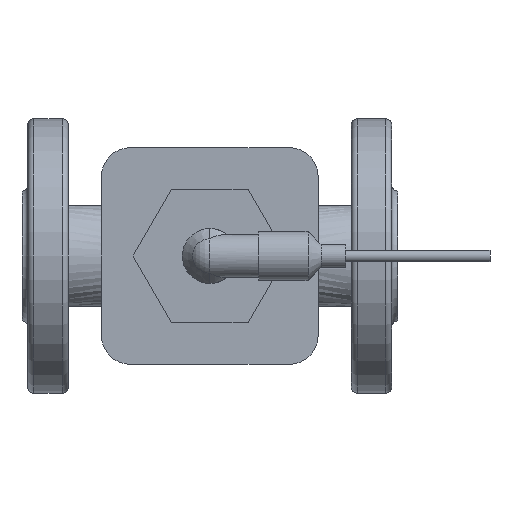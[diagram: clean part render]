
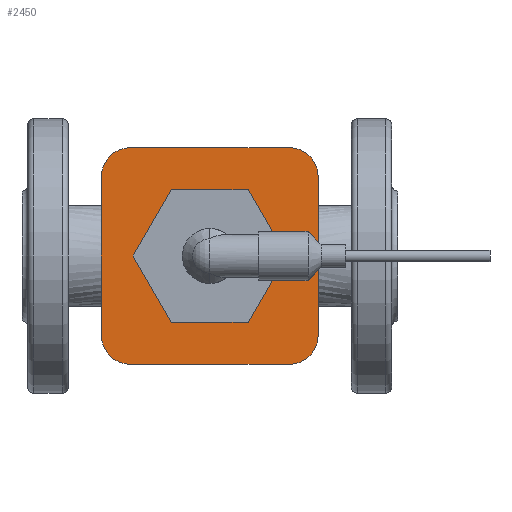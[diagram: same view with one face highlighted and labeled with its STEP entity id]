
A CAD part, front view. The second image highlights one B-rep face of the part: STEP entity #2450.
In plain terms, the highlighted planar face has unit normal (0, -1, 0).
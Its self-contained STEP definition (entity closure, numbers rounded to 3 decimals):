
#17 = CARTESIAN_POINT ( 'NONE',  ( -19.25, 1009.521, -37.5 ) ) ;
#18 = CARTESIAN_POINT ( 'NONE',  ( 8.25, 1009.521, -21. ) ) ;
#19 = DIRECTION ( 'NONE',  ( 0., 0., 1. ) ) ;
#20 = DIRECTION ( 'NONE',  ( 0., 1., 0. ) ) ;
#21 = CARTESIAN_POINT ( 'NONE',  ( 8.25, 1009.521, 0. ) ) ;
#22 = AXIS2_PLACEMENT_3D ( 'NONE', #21, #20, #19 ) ;
#23 = CIRCLE ( 'NONE', #22, 21. ) ;
#57 = DIRECTION ( 'NONE',  ( 0., 0., 1. ) ) ;
#58 = DIRECTION ( 'NONE',  ( 0., 1., 0. ) ) ;
#59 = CARTESIAN_POINT ( 'NONE',  ( -19.25, 1009.521, -27.5 ) ) ;
#60 = AXIS2_PLACEMENT_3D ( 'NONE', #59, #58, #57 ) ;
#61 = PLANE ( 'NONE',  #60 ) ;
#73 = FACE_BOUND ( 'NONE', #2413, .T. ) ;
#74 = DIRECTION ( 'NONE',  ( 0., 0., 1. ) ) ;
#75 = DIRECTION ( 'NONE',  ( 0., 1., 0. ) ) ;
#76 = CARTESIAN_POINT ( 'NONE',  ( 35.75, 1009.521, 27.5 ) ) ;
#77 = AXIS2_PLACEMENT_3D ( 'NONE', #76, #75, #74 ) ;
#82 = CARTESIAN_POINT ( 'NONE',  ( -29.25, 1009.521, 27.5 ) ) ;
#83 = DIRECTION ( 'NONE',  ( 0., 0., 1. ) ) ;
#102 = CIRCLE ( 'NONE', #77, 10. ) ;
#103 = FACE_OUTER_BOUND ( 'NONE', #2462, .T. ) ;
#104 = DIRECTION ( 'NONE',  ( 1., 0., 0. ) ) ;
#105 = VECTOR ( 'NONE', #104, 1000. ) ;
#106 = CARTESIAN_POINT ( 'NONE',  ( 35.75, 1009.521, 37.5 ) ) ;
#161 = DIRECTION ( 'NONE',  ( -1., 0., 0. ) ) ;
#162 = VECTOR ( 'NONE', #161, 1000. ) ;
#163 = CARTESIAN_POINT ( 'NONE',  ( -19.25, 1009.521, -37.5 ) ) ;
#164 = LINE ( 'NONE', #163, #162 ) ;
#166 = CARTESIAN_POINT ( 'NONE',  ( 35.75, 1009.521, -37.5 ) ) ;
#167 = CARTESIAN_POINT ( 'NONE',  ( 45.75, 1009.521, -27.5 ) ) ;
#168 = DIRECTION ( 'NONE',  ( 0., 0., 1. ) ) ;
#169 = DIRECTION ( 'NONE',  ( 0., 1., 0. ) ) ;
#170 = CARTESIAN_POINT ( 'NONE',  ( 35.75, 1009.521, -27.5 ) ) ;
#171 = AXIS2_PLACEMENT_3D ( 'NONE', #170, #169, #168 ) ;
#172 = CIRCLE ( 'NONE', #171, 10. ) ;
#180 = DIRECTION ( 'NONE',  ( 0., 1., 0. ) ) ;
#181 = CARTESIAN_POINT ( 'NONE',  ( -19.25, 1009.521, 27.5 ) ) ;
#182 = AXIS2_PLACEMENT_3D ( 'NONE', #181, #180, #83 ) ;
#183 = CIRCLE ( 'NONE', #182, 10. ) ;
#184 = DIRECTION ( 'NONE',  ( 0., 0., 1. ) ) ;
#185 = DIRECTION ( 'NONE',  ( 0., 1., 0. ) ) ;
#186 = AXIS2_PLACEMENT_3D ( 'NONE', #193, #185, #184 ) ;
#187 = CIRCLE ( 'NONE', #186, 10. ) ;
#193 = CARTESIAN_POINT ( 'NONE',  ( -19.25, 1009.521, -27.5 ) ) ;
#194 = LINE ( 'NONE', #106, #105 ) ;
#218 = CARTESIAN_POINT ( 'NONE',  ( -19.25, 1009.521, 37.5 ) ) ;
#1088 = DIRECTION ( 'NONE',  ( 0., 0., 1. ) ) ;
#1089 = DIRECTION ( 'NONE',  ( 0., 1., 0. ) ) ;
#1090 = CARTESIAN_POINT ( 'NONE',  ( 8.25, 1009.521, 0. ) ) ;
#1091 = AXIS2_PLACEMENT_3D ( 'NONE', #1090, #1089, #1088 ) ;
#1092 = CIRCLE ( 'NONE', #1091, 21. ) ;
#1093 = CARTESIAN_POINT ( 'NONE',  ( 8.25, 1009.521, 21. ) ) ;
#1094 = CARTESIAN_POINT ( 'NONE',  ( 35.75, 1009.521, 37.5 ) ) ;
#1101 = CARTESIAN_POINT ( 'NONE',  ( -29.25, 1009.521, -27.5 ) ) ;
#1102 = DIRECTION ( 'NONE',  ( 0., 0., 1. ) ) ;
#1103 = VECTOR ( 'NONE', #1102, 1000. ) ;
#1104 = CARTESIAN_POINT ( 'NONE',  ( -29.25, 1009.521, -27.5 ) ) ;
#1105 = LINE ( 'NONE', #1104, #1103 ) ;
#2222 = EDGE_CURVE ( 'NONE', #2223, #2515, #5218, .T. ) ;
#2223 = VERTEX_POINT ( 'NONE', #5213 ) ;
#2409 = ORIENTED_EDGE ( 'NONE', *, *, #2446, .F. ) ;
#2410 = ORIENTED_EDGE ( 'NONE', *, *, #2445, .F. ) ;
#2411 = ORIENTED_EDGE ( 'NONE', *, *, #2464, .F. ) ;
#2412 = ORIENTED_EDGE ( 'NONE', *, *, #2419, .F. ) ;
#2413 = EDGE_LOOP ( 'NONE', ( #2425, #2440 ) ) ;
#2419 = EDGE_CURVE ( 'NONE', #2420, #2465, #1105, .T. ) ;
#2420 = VERTEX_POINT ( 'NONE', #1101 ) ;
#2422 = VERTEX_POINT ( 'NONE', #1094 ) ;
#2425 = ORIENTED_EDGE ( 'NONE', *, *, #2426, .T. ) ;
#2426 = EDGE_CURVE ( 'NONE', #2427, #2439, #1092, .T. ) ;
#2427 = VERTEX_POINT ( 'NONE', #1093 ) ;
#2439 = VERTEX_POINT ( 'NONE', #18 ) ;
#2440 = ORIENTED_EDGE ( 'NONE', *, *, #2441, .T. ) ;
#2441 = EDGE_CURVE ( 'NONE', #2439, #2427, #23, .T. ) ;
#2445 = EDGE_CURVE ( 'NONE', #2456, #2422, #194, .T. ) ;
#2446 = EDGE_CURVE ( 'NONE', #2422, #2223, #102, .T. ) ;
#2450 = ADVANCED_FACE ( 'NONE', ( #103, #73 ), #61, .F. ) ;
#2451 = ORIENTED_EDGE ( 'NONE', *, *, #2475, .F. ) ;
#2452 = ORIENTED_EDGE ( 'NONE', *, *, #2453, .F. ) ;
#2453 = EDGE_CURVE ( 'NONE', #2516, #2476, #164, .T. ) ;
#2454 = ORIENTED_EDGE ( 'NONE', *, *, #2514, .F. ) ;
#2455 = ORIENTED_EDGE ( 'NONE', *, *, #2222, .F. ) ;
#2456 = VERTEX_POINT ( 'NONE', #218 ) ;
#2462 = EDGE_LOOP ( 'NONE', ( #2451, #2452, #2454, #2455, #2409, #2410, #2411, #2412 ) ) ;
#2464 = EDGE_CURVE ( 'NONE', #2465, #2456, #183, .T. ) ;
#2465 = VERTEX_POINT ( 'NONE', #82 ) ;
#2475 = EDGE_CURVE ( 'NONE', #2476, #2420, #187, .T. ) ;
#2476 = VERTEX_POINT ( 'NONE', #17 ) ;
#2514 = EDGE_CURVE ( 'NONE', #2515, #2516, #172, .T. ) ;
#2515 = VERTEX_POINT ( 'NONE', #167 ) ;
#2516 = VERTEX_POINT ( 'NONE', #166 ) ;
#5213 = CARTESIAN_POINT ( 'NONE',  ( 45.75, 1009.521, 27.5 ) ) ;
#5215 = DIRECTION ( 'NONE',  ( 0., 0., -1. ) ) ;
#5216 = VECTOR ( 'NONE', #5215, 1000. ) ;
#5217 = CARTESIAN_POINT ( 'NONE',  ( 45.75, 1009.521, -27.5 ) ) ;
#5218 = LINE ( 'NONE', #5217, #5216 ) ;
